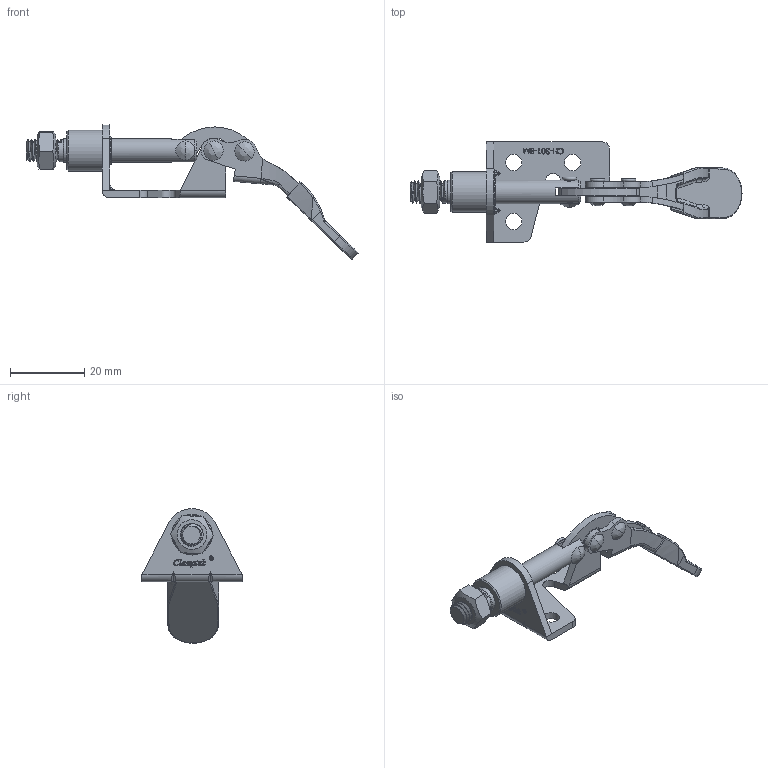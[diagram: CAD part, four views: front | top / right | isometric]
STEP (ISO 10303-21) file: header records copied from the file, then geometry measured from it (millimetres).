
FILE_DESCRIPTION(/* description */ ('STEP AP203'),/* implementation_level */ '2;1');
FILE_NAME(/* name */ 'D:\Vault_2016\Projekty\STRONA\Push-pull clamp\CH-301-BM\CH-301-BM_OTWARTY.stp',/* time_stamp */ '2019-01-10T11:54:08+01:00',/* author */ ('user'),/* organization */ ('Î¢ÈíÖÐ¹ú'),/* preprocessor_version */ 'ST-DEVELOPER v17.2',/* originating_system */ 'Autodesk Inventor 2019',/* authorisation */ '');
FILE_SCHEMA (('AUTOMOTIVE_DESIGN { 1 0 10303 214 3 1 1 }'));
Length unit declared in the file: millimetre
Products named in the file (11): CH-301-BM_OTWARTY; CH-301-BM-01 BASE; CH-301-AM-04 CONNECTING-PLATE; CH-301-AM-03 HANDLE; CH-301-03-01; CH-301-03-02; M6 NUT; CH-301-BM-03; CH-301-07; CH-301-AM-05 LEAD SET; CH-301-06
Assembly tree (11 placements, depth 3):
  CH-301-BM_OTWARTY
    CH-301-BM-01 BASE
    CH-301-AM-04 CONNECTING-PLATE
    CH-301-AM-03 HANDLE
      CH-301-03-01
      CH-301-03-02
    M6 NUT
    CH-301-BM-03
    CH-301-07
    CH-301-06  x2
    CH-301-AM-05 LEAD SET
Bounding box: 89.51 x 27 x 36.27 mm (x, y, z)
Volume: 5699.9 mm3; surface area: 8557.1 mm2
Topology: 10 solids, 10 shells, 616 faces, 1706 edges, 1130 vertices
Faces by surface type: plane 247, bspline 217, cylinder 116, cone 25, torus 11
Full cylindrical faces by diameter (mm): 1.033 x1, 1.17 x1, 2.4 x1, 3 x12, 4.4 x3, 4.8 x5, 6 x9, 6.4 x2, 7.7 x2, 11 x1
Entity records: 33596 total; most frequent: CARTESIAN_POINT 19095, ORIENTED_EDGE 3352, DIRECTION 2241, EDGE_CURVE 1676, VERTEX_POINT 1118, LINE 835, VECTOR 835, AXIS2_PLACEMENT_3D 703
